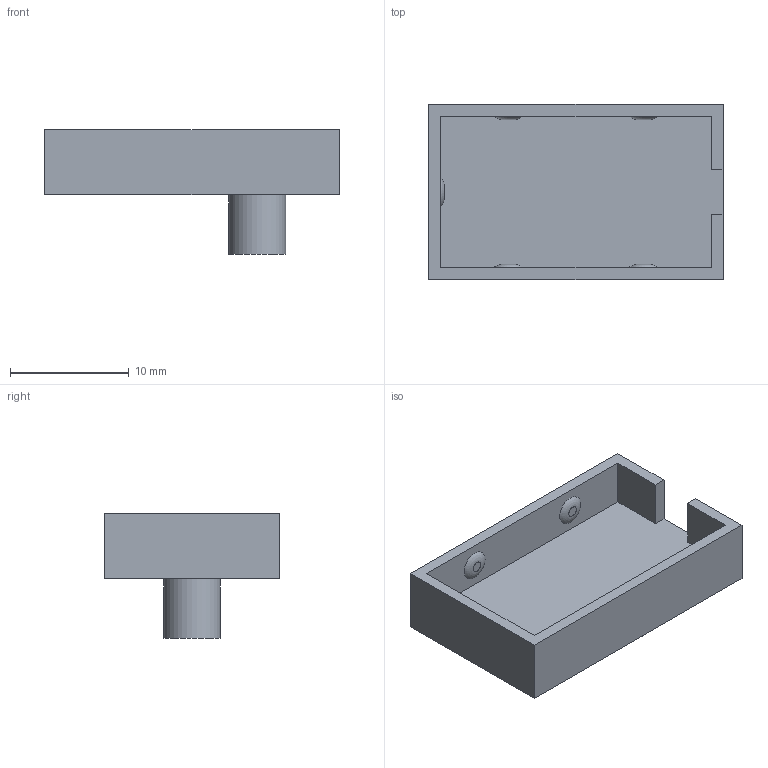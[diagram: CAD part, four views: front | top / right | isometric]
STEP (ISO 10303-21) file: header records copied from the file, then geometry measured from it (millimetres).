
FILE_DESCRIPTION(/* description */ ('STEP AP242 Edition 2','CAx-IF Rec.Pracs.---Representation and Presentation of Product Manufacturing Information (PMI)---4.0---2014-10-13','CAx-IF Rec.Pracs.---3D Tessellated Geometry---0.4---2014-09-14','2;1','CAx-IF Rec.Pracs.---User Defined Attributes---1.5---2016-08-15'),/* implementation_level */ '2;1');
FILE_NAME(/* name */ 'HIRO posing assembly - Robot_Servo_Pivot_Extention v8 (2)',/* time_stamp */ '2026-11-04T05:15:24Z',/* author */ (''),/* organization */ (''),/* preprocessor_version */ 'ST-DEVELOPER v20',/* originating_system */ 'ONSHAPE BY PTC INC, 1.223',/* authorisation */ ' ');
FILE_SCHEMA (('AP242_MANAGED_MODEL_BASED_3D_ENGINEERING_MIM_LF { 1 0 10303 442 3 1 4 }'));
Length unit declared in the file: metre
Products named in the file (1): Robot_Servo_Pivot_Extention v8
Bounding box: 24.8 x 14.8 x 10.5 mm (x, y, z)
Volume: 931.5 mm3; surface area: 1509.9 mm2
Topology: 1 solids, 1 shells, 26 faces, 59 edges, 41 vertices
Faces by surface type: plane 20, torus 5, cylinder 1
Full cylindrical faces by diameter (mm): 4.8 x1
Entity records: 682 total; most frequent: DIRECTION 114, CARTESIAN_POINT 111, ORIENTED_EDGE 96, EDGE_CURVE 48, AXIS2_PLACEMENT_3D 39, EDGE_LOOP 38, FACE_BOUND 38, VERTEX_POINT 36
